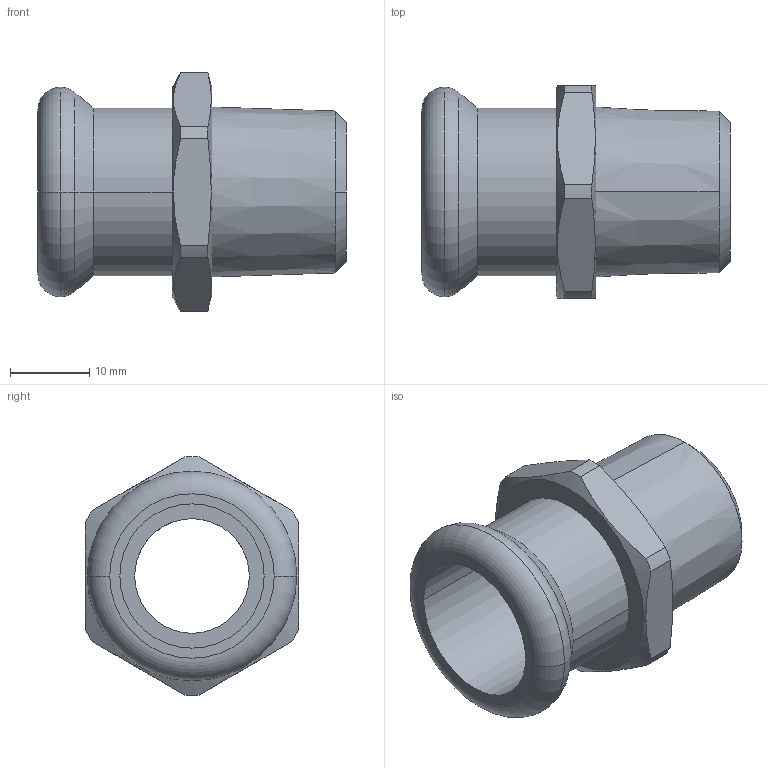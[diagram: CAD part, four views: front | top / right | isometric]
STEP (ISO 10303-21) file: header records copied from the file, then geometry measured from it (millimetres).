
FILE_DESCRIPTION(('CoCreate Modeling STEP Export'),'2;1');
FILE_NAME('C1405 18xR1-2.stp','2014-11-07T14:15:55',(''),(''),'CoCreate Modeling STEP processor for AP214 (Solid Model)','CoCreate Modeling 17.00A 17-Jun-2010 (C) Parametric Technology GmbH','');
FILE_SCHEMA(('AUTOMOTIVE_DESIGN { 1 0 10303 214 1 1 1 1 }'));
Length unit declared in the file: millimetre
Products named in the file (2): C1405_18xR1-2
Assembly tree (1 placements, depth 2):
  C1405_18xR1-2
    C1405_18xR1-2
Bounding box: 39 x 27 x 30.19 mm (x, y, z)
Volume: 7477.6 mm3; surface area: 5752.6 mm2
Topology: 1 solids, 1 shells, 37 faces, 93 edges, 61 vertices
Faces by surface type: cylinder 12, plane 11, cone 10, torus 4
Entity records: 1746 total; most frequent: CARTESIAN_POINT 914, ORIENTED_EDGE 186, DIRECTION 134, EDGE_CURVE 93, VERTEX_POINT 61, AXIS2_PLACEMENT_3D 53, EDGE_LOOP 42, FACE_OUTER_BOUND 37
